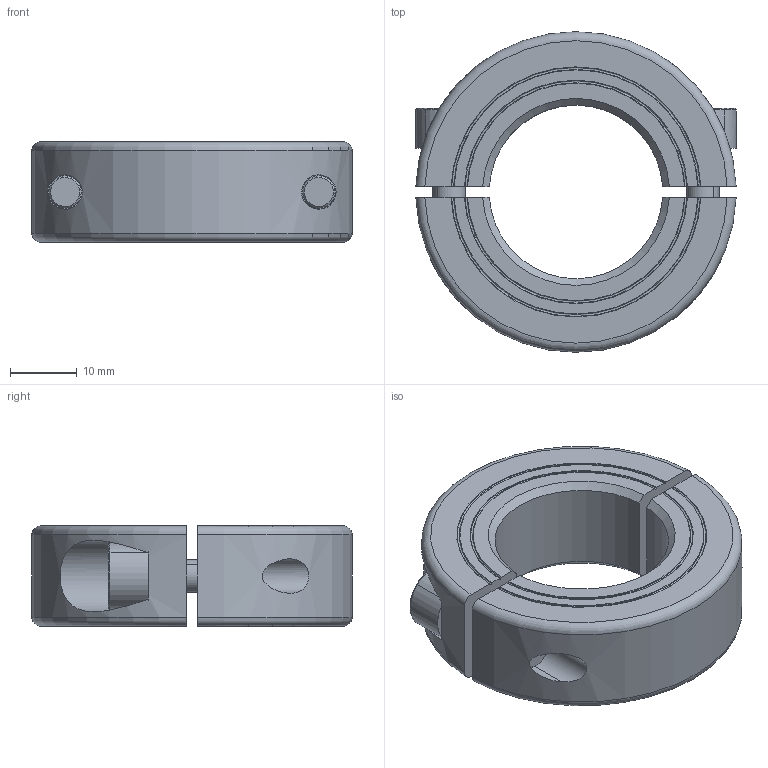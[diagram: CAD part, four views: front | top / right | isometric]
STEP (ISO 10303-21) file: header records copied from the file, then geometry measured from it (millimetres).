
FILE_DESCRIPTION((''),'2;1');
FILE_NAME('MSP-26-X','2016-09-09T',('SYSTEM'),(''),'PRO/ENGINEER BY PARAMETRIC TECHNOLOGY CORPORATION, 2015110','PRO/ENGINEER BY PARAMETRIC TECHNOLOGY CORPORATION, 2015110','');
FILE_SCHEMA(('AUTOMOTIVE_DESIGN { 1 0 10303 214 1 1 1 1 }'));
Length unit declared in the file: inch
Products named in the file (1): MSP-26-X
Bounding box: 47.99 x 48 x 15 mm (x, y, z)
Volume: 17570 mm3; surface area: 8182 mm2
Topology: 2 solids, 2 shells, 90 faces, 222 edges, 144 vertices
Faces by surface type: plane 36, cylinder 26, cone 20, torus 8
Entity records: 3619 total; most frequent: CARTESIAN_POINT 810, ORIENTED_EDGE 444, DIRECTION 430, EDGE_CURVE 222, AXIS2_PLACEMENT_3D 168, VERTEX_POINT 144, EDGE_LOOP 102, VECTOR 94
